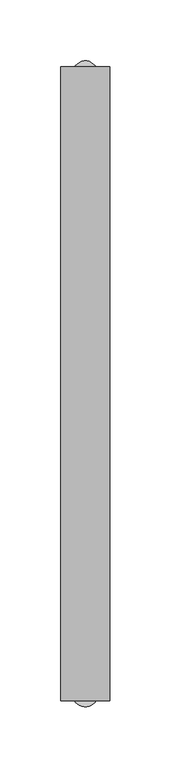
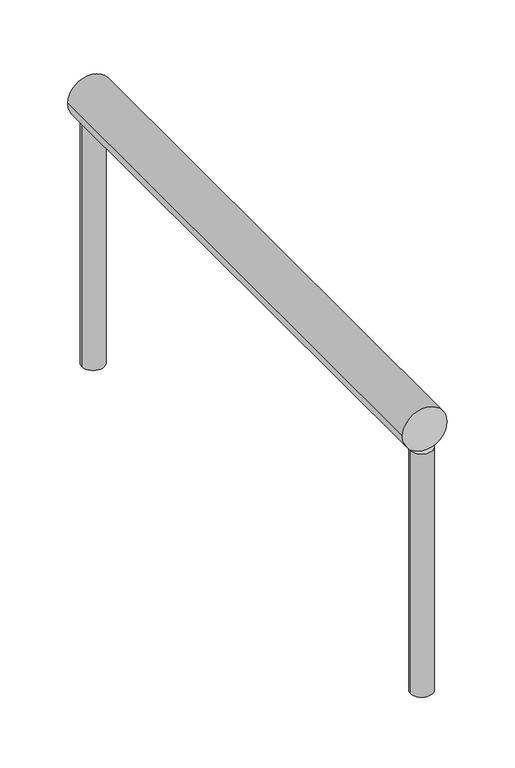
"""IFC4 building model written with IfcOpenShell, lengths in millimetres: railing geometry, Geländer-1."""

import ifcopenshell
import ifcopenshell.guid

model = None  # the IFC model being written
_history = None  # IfcOwnerHistory: only IFC2X3 demands one
_inside = {}  # id of a spatial element -> (the spatial element, [elements in it])
_under = {}  # id of a project, library or spatial element -> (it, [spatial elements below it])
_declared = {}  # id of a project -> (the project, [libraries it declares])
_typed = {}  # id of a type object -> (the type object, [elements of that type])
_made_of = {}  # id of a material, layer set ... -> (it, [elements and type objects made of it])


def new_model(schema):
    """Start an empty IFC model of exactly this schema.

    Asked for "IFC4X3", IfcOpenShell would pick the latest addendum, in which some entities
    have other attributes; the version numbers below select the first issue.
    IFC2X3 requires an IfcOwnerHistory on every rooted entity: one is made here for all.
    """
    global model, _history
    if schema == "IFC4X3":
        model = ifcopenshell.file(schema_version=(4, 3, 0, 0))
    else:
        model = ifcopenshell.file(schema=schema)
    _inside.clear()
    _under.clear()
    _declared.clear()
    _typed.clear()
    _made_of.clear()
    _history = None
    if model.schema == "IFC2X3":
        org = make("IfcOrganization", Name="unknown")
        user = make(
            "IfcPersonAndOrganization",
            ThePerson=make("IfcPerson", FamilyName="unknown"),
            TheOrganization=org,
        )
        app = make(
            "IfcApplication",
            ApplicationDeveloper=org,
            Version="unknown",
            ApplicationFullName="unknown",
            ApplicationIdentifier="unknown",
        )
        _history = make(
            "IfcOwnerHistory",
            OwningUser=user,
            OwningApplication=app,
            ChangeAction="ADDED",
            CreationDate=0,
        )
    return model


def make(cls, **values):
    """One entity of the class cls with the attributes given. An attribute that is None is left unset."""
    return model.create_entity(
        cls, **{name: value for name, value in values.items() if value is not None}
    )


def rooted(cls, **values):
    """An entity with a GlobalId (a new one), such as an element, a storey or a relation."""
    return make(cls, GlobalId=ifcopenshell.guid.new(), OwnerHistory=_history, **values)


def si_unit(unit_type, name, prefix=None):
    """IfcSIUnit, for example si_unit("LENGTHUNIT", "METRE", prefix="MILLI")."""
    return make("IfcSIUnit", UnitType=unit_type, Prefix=prefix, Name=name)


def assignment(units):
    """IfcUnitAssignment: the units of a project."""
    return None if units is None else make("IfcUnitAssignment", Units=units)


def point(xyz):
    """IfcCartesianPoint."""
    return None if xyz is None else make("IfcCartesianPoint", Coordinates=xyz)


def direction(xyz):
    """IfcDirection."""
    return None if xyz is None else make("IfcDirection", DirectionRatios=xyz)


def frame(location, z_axis=None, x_axis=None):
    """IfcAxis2Placement3D, a coordinate frame: its origin and axes. An axis left out is left unset."""
    return make(
        "IfcAxis2Placement3D",
        Location=point(location),
        Axis=direction(z_axis),
        RefDirection=direction(x_axis),
    )


def frame_2d(location, x_axis=None):
    """IfcAxis2Placement2D, a coordinate frame in the plane: its origin and x axis."""
    return make(
        "IfcAxis2Placement2D", Location=point(location), RefDirection=direction(x_axis)
    )


def origin():
    """The frame at (0, 0, 0) with its axes left unset."""
    return frame((0.0, 0.0, 0.0))


def place(relative_to, where):
    """IfcLocalPlacement: puts the frame where relative to a parent placement (None: the world)."""
    return make(
        "IfcLocalPlacement", PlacementRelTo=relative_to, RelativePlacement=where
    )


def context(
    kind, dimensions, precision=None, world=None, true_north=None, identifier=None
):
    """IfcGeometricRepresentationContext, for example the 3D "Model" context."""
    return make(
        "IfcGeometricRepresentationContext",
        ContextIdentifier=identifier,
        ContextType=kind,
        CoordinateSpaceDimension=dimensions,
        Precision=precision,
        WorldCoordinateSystem=world,
        TrueNorth=true_north,
    )


def project(units=None, contexts=None):
    """IfcProject with its units and contexts."""
    return rooted(
        "IfcProject",
        Name="project",
        RepresentationContexts=contexts,
        UnitsInContext=assignment(units),
    )


def spatial(cls, under=None, at=None, **own):
    """A site, building, storey or space (cls), placed at a placement, below another one or the project."""
    s = rooted(cls, ObjectPlacement=at, **own)
    if under is not None:
        _under.setdefault(under.id(), (under, []))[1].append(s)
    return s


def circle_curve(where, radius):
    """IfcCircle in the frame where."""
    return make("IfcCircle", Position=where, Radius=radius)


def trimmed(basis, trim1, trim2, sense, master):
    """IfcTrimmedCurve: the piece of a basis curve between two trims."""
    return make(
        "IfcTrimmedCurve",
        BasisCurve=basis,
        Trim1=trim1,
        Trim2=trim2,
        SenseAgreement=sense,
        MasterRepresentation=master,
    )


def segment(curve, same_sense, transition):
    """IfcCompositeCurveSegment."""
    return make(
        "IfcCompositeCurveSegment",
        Transition=transition,
        SameSense=same_sense,
        ParentCurve=curve,
    )


def composite_curve(segments, self_intersect=None):
    """IfcCompositeCurve: segments joined end to end."""
    return make("IfcCompositeCurve", Segments=segments, SelfIntersect=self_intersect)


def outline(outer, holes=None, kind="AREA"):
    """IfcArbitraryClosedProfileDef: a profile drawn as a closed curve; with holes, ...WithVoids."""
    if holes is None:
        return make("IfcArbitraryClosedProfileDef", ProfileType=kind, OuterCurve=outer)
    return make(
        "IfcArbitraryProfileDefWithVoids",
        ProfileType=kind,
        OuterCurve=outer,
        InnerCurves=holes,
    )


def extrude(swept, where, along, depth):
    """IfcExtrudedAreaSolid: the profile swept, set in the frame where, extruded along a direction by depth."""
    return make(
        "IfcExtrudedAreaSolid",
        SweptArea=swept,
        Position=where,
        ExtrudedDirection=direction(along),
        Depth=depth,
    )


def shape(context_of_items, identifier, shape_type, items):
    """IfcShapeRepresentation: the items that make up one representation, for example the "Body"."""
    return make(
        "IfcShapeRepresentation",
        ContextOfItems=context_of_items,
        RepresentationIdentifier=identifier,
        RepresentationType=shape_type,
        Items=items,
    )


def source(mapping_origin, context_of_items, identifier, shape_type, items):
    """IfcRepresentationMap: a shape defined once, which mapped items show again and again."""
    return make(
        "IfcRepresentationMap",
        MappingOrigin=mapping_origin,
        MappedRepresentation=shape(context_of_items, identifier, shape_type, items),
    )


def transform(
    local_origin,
    x_axis=None,
    y_axis=None,
    z_axis=None,
    scale=None,
    scale2=None,
    scale3=None,
    uniform=True,
):
    """IfcCartesianTransformationOperator3D, or its non-uniform kind. x_axis, y_axis, z_axis: its Axis1, 2, 3."""
    if uniform:
        return make(
            "IfcCartesianTransformationOperator3D",
            Axis1=direction(x_axis),
            Axis2=direction(y_axis),
            LocalOrigin=point(local_origin),
            Scale=scale,
            Axis3=direction(z_axis),
        )
    return make(
        "IfcCartesianTransformationOperator3DnonUniform",
        Axis1=direction(x_axis),
        Axis2=direction(y_axis),
        LocalOrigin=point(local_origin),
        Scale=scale,
        Axis3=direction(z_axis),
        Scale2=scale2,
        Scale3=scale3,
    )


def mapped(mapping_source, mapping_target):
    """IfcMappedItem: shows the shape of a source again, moved by a transform."""
    return make(
        "IfcMappedItem", MappingSource=mapping_source, MappingTarget=mapping_target
    )


def made_of(thing, what):
    """Note that an element or type object is made of a material, layer set ...; save() writes the relation."""
    if what is not None:
        _made_of.setdefault(what.id(), (what, []))[1].append(thing)
    return thing


def element(
    cls,
    number,
    at=None,
    inside=None,
    cuts=None,
    type_object=None,
    material=None,
    context=None,
    identifier="Body",
    shape_type=None,
    held_by="IfcProductDefinitionShape",
    body=None,
    shapes=None,
    **own,
):
    """One element of the class cls, such as IfcWall. Its Tag is "e" and its number.

    at: its placement. inside: the storey or other place that contains it. cuts: it is an
    opening in that element (IfcRelVoidsElement). A single representation is given by context,
    identifier, shape_type and body (its items); several are given by shapes. held_by: the class
    of the entity that holds the representations. save() writes the other relations.
    """
    e = rooted(cls, Tag="e%d" % number, ObjectPlacement=at, **own)
    if body is not None:
        shapes = [shape(context, identifier, shape_type, body)]
    if shapes is not None:
        e.Representation = make(held_by, Representations=shapes)
    if inside is not None:
        _inside.setdefault(inside.id(), (inside, []))[1].append(e)
    if cuts is not None:
        rooted(
            "IfcRelVoidsElement", RelatingBuildingElement=cuts, RelatedOpeningElement=e
        )
    if type_object is not None:
        _typed.setdefault(type_object.id(), (type_object, []))[1].append(e)
    return made_of(e, material)


def aggregate(whole, parts):
    """IfcRelAggregates: a whole, such as a stair, and the parts it consists of."""
    return rooted("IfcRelAggregates", RelatingObject=whole, RelatedObjects=parts)


def save(model, path):
    """Write the relations noted so far, then the file.

    IfcRelAggregates (storeys below a building ...), IfcRelContainedInSpatialStructure (elements
    in a storey), IfcRelDefinesByType, IfcRelAssociatesMaterial and IfcRelDeclares: one each for
    every whole, place, type object, material and project.
    """
    for whole, parts in _under.values():
        aggregate(whole, parts)
    for where, things in _inside.values():
        rooted(
            "IfcRelContainedInSpatialStructure",
            RelatedElements=things,
            RelatingStructure=where,
        )
    for kind, things in _typed.values():
        rooted("IfcRelDefinesByType", RelatedObjects=things, RelatingType=kind)
    for what, things in _made_of.values():
        rooted("IfcRelAssociatesMaterial", RelatedObjects=things, RelatingMaterial=what)
    for by, libraries in _declared.values():
        rooted("IfcRelDeclares", RelatingContext=by, RelatedDefinitions=libraries)
    model.write(path)


def railing_3a00c38e(model_context):
    return source(origin(), model_context, "Body", "SweptSolid", [
        extrude(outline(composite_curve([segment(trimmed(circle_curve(frame_2d((1250.0, 1869.1335905)), 20.0), [point((1250.0, 1889.1335905))], [point((1250.0, 1849.1335905))], False, "CARTESIAN"), True, "CONTINUOUS"), segment(trimmed(circle_curve(frame_2d((1250.0, 1869.1335905)), 20.0), [point((1250.0, 1849.1335905))], [point((1250.0, 1889.1335905))], False, "CARTESIAN"), True, "CONTINUOUS")], self_intersect=False)), frame((0.0, -1120.0, 0.0), z_axis=(0.0, 1.0, 0.0), x_axis=(0.0, 0.0, 1.0)), (0.0, 0.0, 1.0), 520.0),
        extrude(outline(composite_curve([segment(trimmed(circle_curve(frame_2d((1869.1335905, -1115.0)), 10.0), [point((1879.1335905, -1115.0))], [point((1859.1335905, -1115.0))], False, "CARTESIAN"), True, "CONTINUOUS"), segment(trimmed(circle_curve(frame_2d((1869.1335905, -1115.0)), 10.0), [point((1859.1335905, -1115.0))], [point((1879.1335905, -1115.0))], False, "CARTESIAN"), True, "CONTINUOUS")], self_intersect=False)), frame((0.0, 0.0, 1000.0), z_axis=(0.0, 0.0, 1.0), x_axis=(1.0, 0.0, 0.0)), (0.0, 0.0, 1.0), 230.0),
        extrude(outline(composite_curve([segment(trimmed(circle_curve(frame_2d((1869.1335905, -605.0)), 10.0), [point((1879.1335905, -605.0))], [point((1859.1335905, -605.0))], False, "CARTESIAN"), True, "CONTINUOUS"), segment(trimmed(circle_curve(frame_2d((1869.1335905, -605.0)), 10.0), [point((1859.1335905, -605.0))], [point((1879.1335905, -605.0))], False, "CARTESIAN"), True, "CONTINUOUS")], self_intersect=False)), frame((0.0, 0.0, 1000.0), z_axis=(0.0, 0.0, 1.0), x_axis=(1.0, 0.0, 0.0)), (0.0, 0.0, 1.0), 230.0),
    ])


if __name__ == "__main__":
    model = new_model("IFC4")
    model_context = context("Model", 3, world=origin())
    ifc_project = project(units=[si_unit("LENGTHUNIT", "METRE", prefix="MILLI")], contexts=[model_context])
    site = spatial("IfcSite", under=ifc_project)
    building = spatial("IfcBuilding", under=site)
    placement = place(None, origin())
    railing_shape = railing_3a00c38e(model_context)
    element("IfcRailing", 1, ObjectType="Geländer-1", at=placement, inside=building, context=model_context, shape_type="MappedRepresentation", body=[
        mapped(railing_shape, transform((0.0, 0.0, 0.0), x_axis=(1.0, 0.0, 0.0), y_axis=(0.0, 1.0, 0.0), z_axis=(0.0, 0.0, 1.0))),
    ])
    save(model, "model.ifc")
